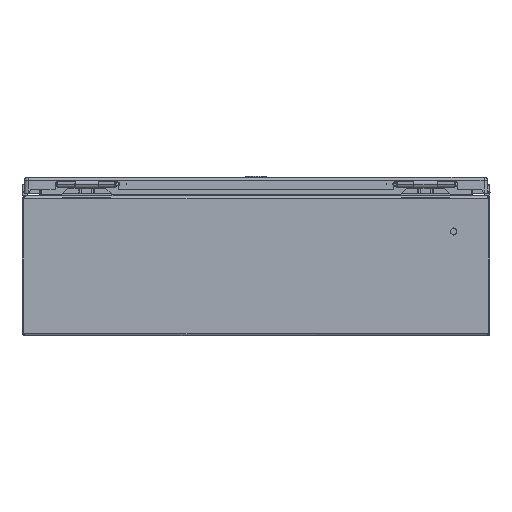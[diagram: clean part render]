
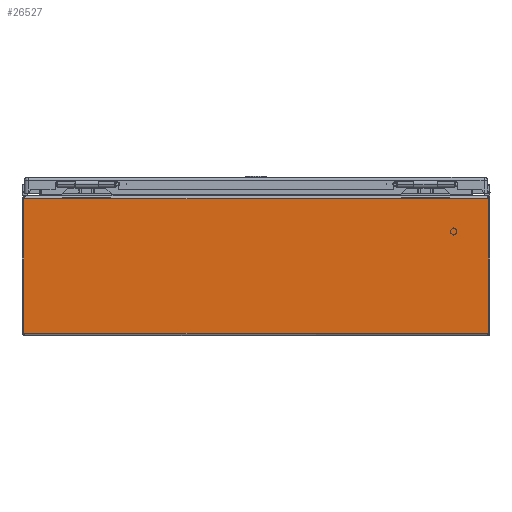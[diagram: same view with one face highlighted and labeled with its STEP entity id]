
A CAD part, left-side view. The second image highlights one B-rep face of the part: STEP entity #26527.
In plain terms, the highlighted planar face has unit normal (-1, 0, 0).
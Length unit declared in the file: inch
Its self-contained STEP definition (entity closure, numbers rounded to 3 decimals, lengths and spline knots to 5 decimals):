
#8641 = AXIS2_PLACEMENT_3D ( 'NONE', #43475, #43461, #43460 ) ;
#12010 = CARTESIAN_POINT ( 'NONE',  ( -10., 9.94693, 0.097 ) ) ;
#12016 = CARTESIAN_POINT ( 'NONE',  ( -10., -9.94693, 0.097 ) ) ;
#12031 = CARTESIAN_POINT ( 'NONE',  ( -10., -9.94693, 5.859 ) ) ;
#12034 = CARTESIAN_POINT ( 'NONE',  ( -10., 9.94693, 5.859 ) ) ;
#17058 = DIRECTION ( 'NONE',  ( 0., -1., 0. ) ) ;
#17065 = CARTESIAN_POINT ( 'NONE',  ( -10., 110., 0.097 ) ) ;
#17067 = DIRECTION ( 'NONE',  ( 0., -1., 0. ) ) ;
#17070 = CARTESIAN_POINT ( 'NONE',  ( -10., 110., 5.859 ) ) ;
#17133 = DIRECTION ( 'NONE',  ( 0., 0., 1. ) ) ;
#17141 = CARTESIAN_POINT ( 'NONE',  ( -10., -9.94693, 5.859 ) ) ;
#17291 = DIRECTION ( 'NONE',  ( 0., 0., -1. ) ) ;
#17306 = CARTESIAN_POINT ( 'NONE',  ( -10., 9.94693, 5.859 ) ) ;
#17849 = FACE_OUTER_BOUND ( 'NONE', #40007, .T. ) ;
#26527 = ADVANCED_FACE ( 'NONE', ( #17849 ), #43468, .T. ) ;
#30091 = EDGE_CURVE ( 'NONE', #44787, #44863, #36422, .T. ) ;
#30169 = EDGE_CURVE ( 'NONE', #44854, #44792, #36502, .T. ) ;
#30201 = EDGE_CURVE ( 'NONE', #44787, #44792, #36531, .T. ) ;
#30207 = EDGE_CURVE ( 'NONE', #44863, #44854, #36530, .T. ) ;
#36422 = LINE ( 'NONE', #17306, #36426 ) ;
#36426 = VECTOR ( 'NONE', #17291, 39.37008 ) ;
#36492 = VECTOR ( 'NONE', #17133, 39.37008 ) ;
#36502 = LINE ( 'NONE', #17141, #36492 ) ;
#36530 = LINE ( 'NONE', #17065, #36547 ) ;
#36531 = LINE ( 'NONE', #17070, #36537 ) ;
#36537 = VECTOR ( 'NONE', #17067, 39.37008 ) ;
#36547 = VECTOR ( 'NONE', #17058, 39.37008 ) ;
#36824 = ORIENTED_EDGE ( 'NONE', *, *, #30201, .F. ) ;
#36862 = ORIENTED_EDGE ( 'NONE', *, *, #30091, .T. ) ;
#37016 = ORIENTED_EDGE ( 'NONE', *, *, #30207, .T. ) ;
#37106 = ORIENTED_EDGE ( 'NONE', *, *, #30169, .T. ) ;
#40007 = EDGE_LOOP ( 'NONE', ( #37106, #36824, #36862, #37016 ) ) ;
#43460 = DIRECTION ( 'NONE',  ( 0., 0., -1. ) ) ;
#43461 = DIRECTION ( 'NONE',  ( -1., 0., 0. ) ) ;
#43468 = PLANE ( 'NONE',  #8641 ) ;
#43475 = CARTESIAN_POINT ( 'NONE',  ( -10., 110., 5.859 ) ) ;
#44787 = VERTEX_POINT ( 'NONE', #12034 ) ;
#44792 = VERTEX_POINT ( 'NONE', #12031 ) ;
#44854 = VERTEX_POINT ( 'NONE', #12016 ) ;
#44863 = VERTEX_POINT ( 'NONE', #12010 ) ;
